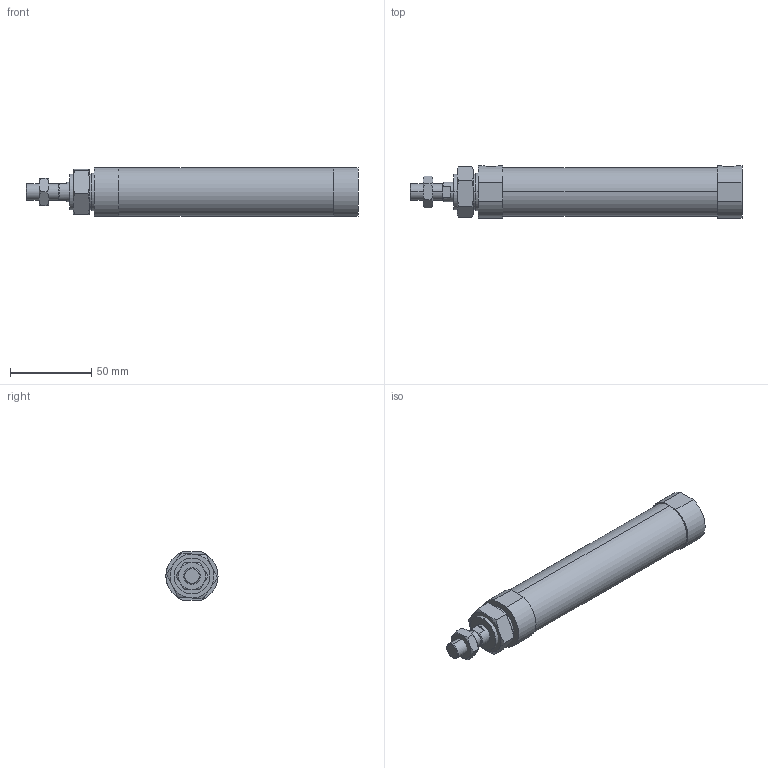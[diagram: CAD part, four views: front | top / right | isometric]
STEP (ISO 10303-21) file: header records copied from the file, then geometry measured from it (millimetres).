
FILE_DESCRIPTION (( 'STEP AP203' ), '1' );
FILE_NAME ('JGND2-25-100-N.STEP', '2016-08-04T02:39:56', ( '' ), ( '' ), 'SwSTEP 2.0', 'SolidWorks 2014', '' );
FILE_SCHEMA (( 'CONFIG_CONTROL_DESIGN' ));
Length unit declared in the file: millimetre
Products named in the file (4): J#2-25-100(P); JGND2-25-100-N
Assembly tree (3 placements, depth 2):
  JGND2-25-100-N
    J#2-25-100(P)
    (unnamed)
    (unnamed)
Bounding box: 204 x 32 x 30 mm (x, y, z)
Volume: 126565.9 mm3; surface area: 23346.3 mm2
Topology: 3 solids, 3 shells, 89 faces, 198 edges, 116 vertices
Faces by surface type: plane 35, torus 24, cylinder 22, cone 8
Entity records: 3150 total; most frequent: CARTESIAN_POINT 845, DIRECTION 400, ORIENTED_EDGE 388, EDGE_CURVE 194, AXIS2_PLACEMENT_3D 167, VERTEX_POINT 116, EDGE_LOOP 98, FACE_OUTER_BOUND 89
